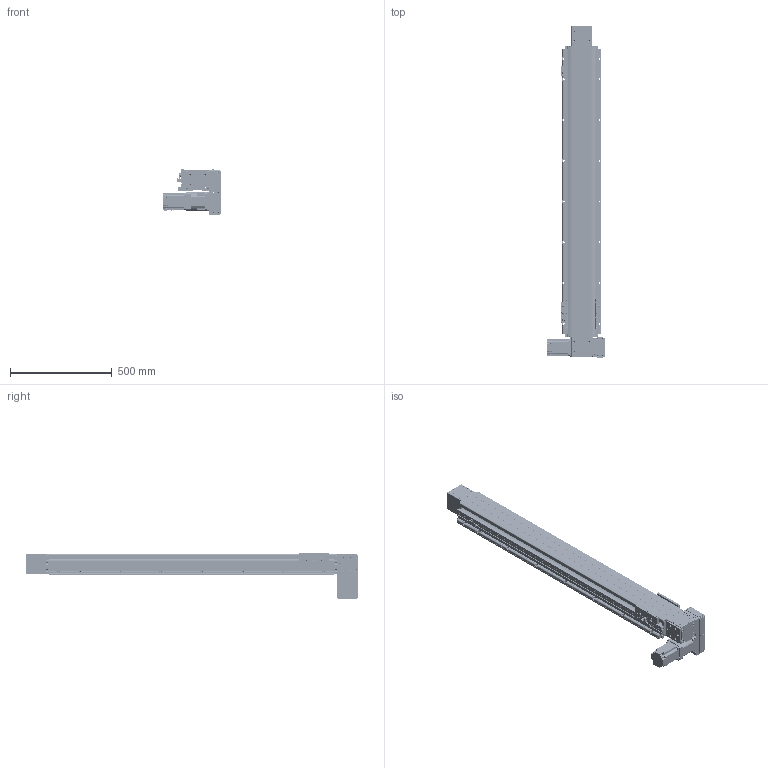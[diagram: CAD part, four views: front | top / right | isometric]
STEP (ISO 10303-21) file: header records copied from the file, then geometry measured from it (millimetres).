
FILE_DESCRIPTION(/* description */ (''),/* implementation_level */ '2;1');
FILE_NAME(/* name */ '\\192.168.0.160\disk1\HAN SHIN Master\B-설계부문\C-표준\B-2024년\BC02-표준도면\+로봇 개선표준도면\홈페이지 표준 도면\홈페이지 최종 작업 폴더\3D\HSB\HSB160\HSB160-DR7G-N-1200-L.stp',/* time_stamp */ '2025-01-10T13:29:42+09:00',/* author */ ('user'),/* organization */ (''),/* preprocessor_version */ 'ST-DEVELOPER v18.1',/* originating_system */ 'Autodesk Inventor 2022',/* authorisation */ '');
FILE_SCHEMA (('AUTOMOTIVE_DESIGN { 1 0 10303 214 3 1 1 }'));
Products named in the file (42): HSB160-DR7G-N-0500-L; BASE; HSB160 TABLE (TEST); FORNT HOUSUNG-1 (Connecting); UPCOVER; HSB160 COVER-1; REAR HOUSUNG-1---; HSB160 REAR SHAFT-2; REAR SHAFT--2; 6004ZZ; 6004ZZ Outer ring; 6004ZZ Shield1; 6004ZZ Inner ring; 6004ZZ Ball; 6004ZZ Shield2; STOPPER3; TENSION PLATE; HSB160 ARC COVER; hsr_ftht_A-M6F_grease_nipple_joint; NIPPLE CAP(신규); SIDE COVER; HSB160 SHAFT-1; HSB160 END COVER; HR120 SENSOR DOG; SENSOR BRK(EE-SX674A); EE_SX674A; hg-kr73_; PGX90-H-1_3; 6206ZZ; 6206ZZ Outer ring; 6206ZZ Shield1; 6206ZZ Inner ring; 6206ZZ Ball; 6206ZZ Shield2; D MOTOR PLATE ASSY; HSB160 D MOTOR PLATE; HR160 400W LR BELT COVER; 750W MOTOR PLATE; HR180 ACRYL COVER - 1; HR180 ACRYL COVER - 1_1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
Assembly tree (87 placements, depth 3):
  HSB160-DR7G-N-0500-L
    BASE
    HSB160 TABLE (TEST)
    FORNT HOUSUNG-1 (Connecting)
    6206ZZ  x2
      6206ZZ Outer ring
      6206ZZ Shield1
      6206ZZ Inner ring
      6206ZZ Ball
      6206ZZ Shield2
    UPCOVER
    HSB160 COVER-1  x2
    REAR HOUSUNG-1---
    6004ZZ  x2
      6004ZZ Outer ring
      6004ZZ Shield1
      6004ZZ Inner ring
      6004ZZ Ball
      6004ZZ Shield2
    HSB160 REAR SHAFT-2
    REAR SHAFT--2
    TENSION PLATE  x2
    HSB160 ARC COVER  x4
    STOPPER3  x4
    SIDE COVER  x2
    hsr_ftht_A-M6F_grease_nipple_joint  x4
    NIPPLE CAP(신규)  x4
    HSB160 SHAFT-1
    HSB160 END COVER
    SENSOR BRK(EE-SX674A)  x3
    EE_SX674A  x3
    HR120 SENSOR DOG
    hg-kr73_
    PGX90-H-1_3
    D MOTOR PLATE ASSY
      HSB160 D MOTOR PLATE
      HR160 400W LR BELT COVER
      750W MOTOR PLATE
      HR180 ACRYL COVER - 1_2  x2
      HR180 ACRYL COVER - 1
      HR180 ACRYL COVER - 1_1
    HSB160 BEARING COVER_대칭도
Bounding box: 284.5 x 1628.5 x 226.5 mm (x, y, z)
Volume: 10667160.2 mm3; surface area: 2741657.3 mm2
Topology: 131 solids, 133 shells, 6458 faces, 17705 edges, 11642 vertices
Faces by surface type: plane 4514, cylinder 1397, cone 375, sphere 88, torus 59, bspline 25
Full cylindrical faces by diameter (mm): 2.013 x2, 2.459 x54, 3 x20, 3.242 x50, 3.4 x22, 3.5 x6, 4.134 x18, 4.2 x4, 4.5 x40, 4.917 x74, 5 x44, 5.1 x1, 5.5 x25, 5.6 x4, 5.9 x4, 6 x21, 6.5 x9, 6.6 x18, 6.8 x9, 7 x32, 7.6 x4, 8 x5, 8.376 x16, 8.433 x2, 9 x4, 9.5 x31, 10 x5, 11 x28, 15 x8, 18.5 x2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
Entity records: 117231 total; most frequent: CARTESIAN_POINT 22235, DIRECTION 19463, ORIENTED_EDGE 18878, EDGE_CURVE 9439, AXIS2_PLACEMENT_3D 6605, LINE 6253, VECTOR 6253, VERTEX_POINT 6243
